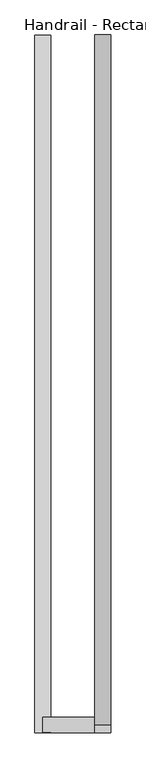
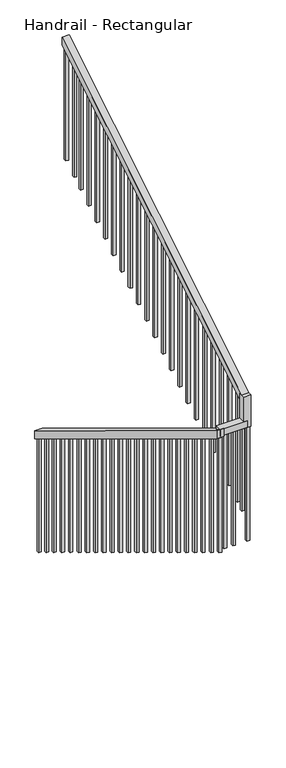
"""IFC4 building model written with IfcOpenShell, lengths in millimetres: railing geometry, Handrail - Rectangular."""

from ifc_helpers import new_model, si_unit, frame, origin, place, context, project, spatial, polyline, outline, extrude, source, transform, mapped, element, save


def handrail_rectangular_dbc5561f(model_context):
    return source(origin(), model_context, "Body", "SweptSolid", [
        extrude(outline(polyline([(-12204.7769844, 40707.7333333), (-12204.7769844, 40648.3318731), (-14439.9769844, 42002.9985397), (-14439.9769844, 42062.4), (-12204.7769844, 40707.7333333)])), frame((-1225.5792336, 0.0, 0.0), z_axis=(1.0, 0.0, 0.0), x_axis=(0.0, 1.0, 0.0)), (0.0, 0.0, 1.0), 50.8),
        extrude(outline(polyline([(-1200.1792336, -14439.9769844), (-1200.1792336, -14389.1769844), (-1008.0917336, -14389.1769844), (-1008.0917336, -14439.9769844), (-1200.1792336, -14439.9769844)])), frame((0.0, 0.0, 42011.6), z_axis=(0.0, 0.0, 1.0), x_axis=(1.0, 0.0, 0.0)), (0.0, 0.0, 1.0), 50.8),
        extrude(outline(polyline([(-982.6917336, -14389.1769844), (-982.6917336, -14439.9769844), (-1033.4917336, -14439.9769844), (-1033.4917336, -14389.1769844), (-982.6917336, -14389.1769844)])), frame((0.0, 0.0, 42011.6), z_axis=(0.0, 0.0, 1.0), x_axis=(1.0, 0.0, 0.0)), (0.0, 0.0, 1.0), 235.5272727),
        extrude(outline(polyline([(-14414.5769844, 42187.7258125), (-14414.5769844, 42247.1272727), (-12204.7769844, 43586.4), (-12204.7769844, 43526.9985397), (-14414.5769844, 42187.7258125)])), frame((-1033.4917336, 0.0, 0.0), z_axis=(1.0, 0.0, 0.0), x_axis=(0.0, 1.0, 0.0)), (0.0, 0.0, 1.0), 50.8),
        extrude(outline(polyline([(-12204.7769844, 42666.2272727), (-12223.8269844, 42666.2272727), (-12223.8269844, 43515.4530852), (-12204.7769844, 43526.9985397), (-12204.7769844, 42666.2272727)])), frame((-1017.6167336, 0.0, 0.0), z_axis=(1.0, 0.0, 0.0), x_axis=(0.0, 1.0, 0.0)), (0.0, 0.0, 1.0), 19.05),
        extrude(outline(polyline([(-12306.3769844, 42604.6515152), (-12325.4269844, 42604.6515152), (-12325.4269844, 43453.8773276), (-12306.3769844, 43465.4227822), (-12306.3769844, 42604.6515152)])), frame((-1017.6167336, 0.0, 0.0), z_axis=(1.0, 0.0, 0.0), x_axis=(0.0, 1.0, 0.0)), (0.0, 0.0, 1.0), 19.05),
        extrude(outline(polyline([(-12385.7519844, 42556.5454545), (-12404.8019844, 42556.5454545), (-12404.8019844, 43405.771267), (-12385.7519844, 43417.3167216), (-12385.7519844, 42556.5454545)])), frame((-1017.6167336, 0.0, 0.0), z_axis=(1.0, 0.0, 0.0), x_axis=(0.0, 1.0, 0.0)), (0.0, 0.0, 1.0), 19.05),
        extrude(outline(polyline([(-12484.1769844, 42496.8939394), (-12503.2269844, 42496.8939394), (-12503.2269844, 43346.1197519), (-12484.1769844, 43357.6652064), (-12484.1769844, 42496.8939394)])), frame((-1017.6167336, 0.0, 0.0), z_axis=(1.0, 0.0, 0.0), x_axis=(0.0, 1.0, 0.0)), (0.0, 0.0, 1.0), 19.05),
        extrude(outline(polyline([(-12585.7769844, 42435.3181818), (-12604.8269844, 42435.3181818), (-12604.8269844, 43284.5439943), (-12585.7769844, 43296.0894488), (-12585.7769844, 42435.3181818)])), frame((-1017.6167336, 0.0, 0.0), z_axis=(1.0, 0.0, 0.0), x_axis=(0.0, 1.0, 0.0)), (0.0, 0.0, 1.0), 19.05),
        extrude(outline(polyline([(-12687.3769844, 42373.7424242), (-12706.4269844, 42373.7424242), (-12706.4269844, 43222.9682367), (-12687.3769844, 43234.5136913), (-12687.3769844, 42373.7424242)])), frame((-1017.6167336, 0.0, 0.0), z_axis=(1.0, 0.0, 0.0), x_axis=(0.0, 1.0, 0.0)), (0.0, 0.0, 1.0), 19.05),
        extrude(outline(polyline([(-12788.9769844, 42312.1666667), (-12808.0269844, 42312.1666667), (-12808.0269844, 43161.3924791), (-12788.9769844, 43172.9379337), (-12788.9769844, 42312.1666667)])), frame((-1017.6167336, 0.0, 0.0), z_axis=(1.0, 0.0, 0.0), x_axis=(0.0, 1.0, 0.0)), (0.0, 0.0, 1.0), 19.05),
        extrude(outline(polyline([(-12890.5769844, 42250.5909091), (-12909.6269844, 42250.5909091), (-12909.6269844, 43099.8167216), (-12890.5769844, 43111.3621761), (-12890.5769844, 42250.5909091)])), frame((-1017.6167336, 0.0, 0.0), z_axis=(1.0, 0.0, 0.0), x_axis=(0.0, 1.0, 0.0)), (0.0, 0.0, 1.0), 19.05),
        extrude(outline(polyline([(-12992.1769844, 42189.0151515), (-13011.2269844, 42189.0151515), (-13011.2269844, 43038.240964), (-12992.1769844, 43049.7864185), (-12992.1769844, 42189.0151515)])), frame((-1017.6167336, 0.0, 0.0), z_axis=(1.0, 0.0, 0.0), x_axis=(0.0, 1.0, 0.0)), (0.0, 0.0, 1.0), 19.05),
        extrude(outline(polyline([(-13093.7769844, 42127.4393939), (-13112.8269844, 42127.4393939), (-13112.8269844, 42976.6652064), (-13093.7769844, 42988.210661), (-13093.7769844, 42127.4393939)])), frame((-1017.6167336, 0.0, 0.0), z_axis=(1.0, 0.0, 0.0), x_axis=(0.0, 1.0, 0.0)), (0.0, 0.0, 1.0), 19.05),
        extrude(outline(polyline([(-13195.3769844, 42065.8636364), (-13214.4269844, 42065.8636364), (-13214.4269844, 42915.0894488), (-13195.3769844, 42926.6349034), (-13195.3769844, 42065.8636364)])), frame((-1017.6167336, 0.0, 0.0), z_axis=(1.0, 0.0, 0.0), x_axis=(0.0, 1.0, 0.0)), (0.0, 0.0, 1.0), 19.05),
        extrude(outline(polyline([(-13296.9769844, 42004.2878788), (-13316.0269844, 42004.2878788), (-13316.0269844, 42853.5136913), (-13296.9769844, 42865.0591458), (-13296.9769844, 42004.2878788)])), frame((-1017.6167336, 0.0, 0.0), z_axis=(1.0, 0.0, 0.0), x_axis=(0.0, 1.0, 0.0)), (0.0, 0.0, 1.0), 19.05),
        extrude(outline(polyline([(-13398.5769844, 41942.7121212), (-13417.6269844, 41942.7121212), (-13417.6269844, 42791.9379337), (-13398.5769844, 42803.4833882), (-13398.5769844, 41942.7121212)])), frame((-1017.6167336, 0.0, 0.0), z_axis=(1.0, 0.0, 0.0), x_axis=(0.0, 1.0, 0.0)), (0.0, 0.0, 1.0), 19.05),
        extrude(outline(polyline([(-13500.1769844, 41881.1363636), (-13519.2269844, 41881.1363636), (-13519.2269844, 42730.3621761), (-13500.1769844, 42741.9076307), (-13500.1769844, 41881.1363636)])), frame((-1017.6167336, 0.0, 0.0), z_axis=(1.0, 0.0, 0.0), x_axis=(0.0, 1.0, 0.0)), (0.0, 0.0, 1.0), 19.05),
        extrude(outline(polyline([(-13601.7769844, 41819.5606061), (-13620.8269844, 41819.5606061), (-13620.8269844, 42668.7864185), (-13601.7769844, 42680.3318731), (-13601.7769844, 41819.5606061)])), frame((-1017.6167336, 0.0, 0.0), z_axis=(1.0, 0.0, 0.0), x_axis=(0.0, 1.0, 0.0)), (0.0, 0.0, 1.0), 19.05),
        extrude(outline(polyline([(-13703.3769844, 41757.9848485), (-13722.4269844, 41757.9848485), (-13722.4269844, 42607.210661), (-13703.3769844, 42618.7561155), (-13703.3769844, 41757.9848485)])), frame((-1017.6167336, 0.0, 0.0), z_axis=(1.0, 0.0, 0.0), x_axis=(0.0, 1.0, 0.0)), (0.0, 0.0, 1.0), 19.05),
        extrude(outline(polyline([(-13804.9769844, 41696.4090909), (-13824.0269844, 41696.4090909), (-13824.0269844, 42545.6349034), (-13804.9769844, 42557.1803579), (-13804.9769844, 41696.4090909)])), frame((-1017.6167336, 0.0, 0.0), z_axis=(1.0, 0.0, 0.0), x_axis=(0.0, 1.0, 0.0)), (0.0, 0.0, 1.0), 19.05),
        extrude(outline(polyline([(-13906.5769844, 41634.8333333), (-13925.6269844, 41634.8333333), (-13925.6269844, 42484.0591458), (-13906.5769844, 42495.6046004), (-13906.5769844, 41634.8333333)])), frame((-1017.6167336, 0.0, 0.0), z_axis=(1.0, 0.0, 0.0), x_axis=(0.0, 1.0, 0.0)), (0.0, 0.0, 1.0), 19.05),
        extrude(outline(polyline([(-14008.1769844, 41573.2575758), (-14027.2269844, 41573.2575758), (-14027.2269844, 42422.4833882), (-14008.1769844, 42434.0288428), (-14008.1769844, 41573.2575758)])), frame((-1017.6167336, 0.0, 0.0), z_axis=(1.0, 0.0, 0.0), x_axis=(0.0, 1.0, 0.0)), (0.0, 0.0, 1.0), 19.05),
        extrude(outline(polyline([(-14109.7769844, 41511.6818182), (-14128.8269844, 41511.6818182), (-14128.8269844, 42360.9076307), (-14109.7769844, 42372.4530852), (-14109.7769844, 41511.6818182)])), frame((-1017.6167336, 0.0, 0.0), z_axis=(1.0, 0.0, 0.0), x_axis=(0.0, 1.0, 0.0)), (0.0, 0.0, 1.0), 19.05),
        extrude(outline(polyline([(-14211.3769844, 41450.1060606), (-14230.4269844, 41450.1060606), (-14230.4269844, 42299.3318731), (-14211.3769844, 42310.8773276), (-14211.3769844, 41450.1060606)])), frame((-1017.6167336, 0.0, 0.0), z_axis=(1.0, 0.0, 0.0), x_axis=(0.0, 1.0, 0.0)), (0.0, 0.0, 1.0), 19.05),
        extrude(outline(polyline([(-14312.9769844, 41388.530303), (-14332.0269844, 41388.530303), (-14332.0269844, 42237.7561155), (-14312.9769844, 42249.30157), (-14312.9769844, 41388.530303)])), frame((-1017.6167336, 0.0, 0.0), z_axis=(1.0, 0.0, 0.0), x_axis=(0.0, 1.0, 0.0)), (0.0, 0.0, 1.0), 19.05),
        extrude(outline(polyline([(-14366.9519844, 41355.8181818), (-14386.0019844, 41355.8181818), (-14386.0019844, 42205.0439943), (-14366.9519844, 42216.5894488), (-14366.9519844, 41355.8181818)])), frame((-1017.6167336, 0.0, 0.0), z_axis=(1.0, 0.0, 0.0), x_axis=(0.0, 1.0, 0.0)), (0.0, 0.0, 1.0), 19.05),
        extrude(outline(polyline([(-1001.7417336, -14405.0519844), (-982.6917336, -14405.0519844), (-982.6917336, -14424.1019844), (-1001.7417336, -14424.1019844), (-1001.7417336, -14405.0519844)])), frame((0.0, 0.0, 41148.0), z_axis=(0.0, 0.0, 1.0), x_axis=(1.0, 0.0, 0.0)), (0.0, 0.0, 1.0), 863.6),
        extrude(outline(polyline([(-1103.3417336, -14405.0519844), (-1084.2917336, -14405.0519844), (-1084.2917336, -14424.1019844), (-1103.3417336, -14424.1019844), (-1103.3417336, -14405.0519844)])), frame((0.0, 0.0, 41148.0), z_axis=(0.0, 0.0, 1.0), x_axis=(1.0, 0.0, 0.0)), (0.0, 0.0, 1.0), 863.6),
        extrude(outline(polyline([(-1164.4604836, -14405.0519844), (-1145.4104836, -14405.0519844), (-1145.4104836, -14424.1019844), (-1164.4604836, -14424.1019844), (-1164.4604836, -14405.0519844)])), frame((0.0, 0.0, 41148.0), z_axis=(0.0, 0.0, 1.0), x_axis=(1.0, 0.0, 0.0)), (0.0, 0.0, 1.0), 863.6),
        extrude(outline(polyline([(-14420.9269844, 41142.2272727), (-14439.9769844, 41142.2272727), (-14439.9769844, 42002.9985397), (-14420.9269844, 41991.4530852), (-14420.9269844, 41142.2272727)])), frame((-1209.7042336, 0.0, 0.0), z_axis=(1.0, 0.0, 0.0), x_axis=(0.0, 1.0, 0.0)), (0.0, 0.0, 1.0), 19.05),
        extrude(outline(polyline([(-14319.3269844, 41080.6515152), (-14338.3769844, 41080.6515152), (-14338.3769844, 41941.4227822), (-14319.3269844, 41929.8773276), (-14319.3269844, 41080.6515152)])), frame((-1209.7042336, 0.0, 0.0), z_axis=(1.0, 0.0, 0.0), x_axis=(0.0, 1.0, 0.0)), (0.0, 0.0, 1.0), 19.05),
        extrude(outline(polyline([(-14217.7269844, 41019.0757576), (-14236.7769844, 41019.0757576), (-14236.7769844, 41879.8470246), (-14217.7269844, 41868.30157), (-14217.7269844, 41019.0757576)])), frame((-1209.7042336, 0.0, 0.0), z_axis=(1.0, 0.0, 0.0), x_axis=(0.0, 1.0, 0.0)), (0.0, 0.0, 1.0), 19.05),
        extrude(outline(polyline([(-14116.1269844, 40957.5), (-14135.1769844, 40957.5), (-14135.1769844, 41818.271267), (-14116.1269844, 41806.7258125), (-14116.1269844, 40957.5)])), frame((-1209.7042336, 0.0, 0.0), z_axis=(1.0, 0.0, 0.0), x_axis=(0.0, 1.0, 0.0)), (0.0, 0.0, 1.0), 19.05),
        extrude(outline(polyline([(-14014.5269844, 40895.9242424), (-14033.5769844, 40895.9242424), (-14033.5769844, 41756.6955094), (-14014.5269844, 41745.1500549), (-14014.5269844, 40895.9242424)])), frame((-1209.7042336, 0.0, 0.0), z_axis=(1.0, 0.0, 0.0), x_axis=(0.0, 1.0, 0.0)), (0.0, 0.0, 1.0), 19.05),
        extrude(outline(polyline([(-13912.9269844, 40834.3484848), (-13931.9769844, 40834.3484848), (-13931.9769844, 41695.1197519), (-13912.9269844, 41683.5742973), (-13912.9269844, 40834.3484848)])), frame((-1209.7042336, 0.0, 0.0), z_axis=(1.0, 0.0, 0.0), x_axis=(0.0, 1.0, 0.0)), (0.0, 0.0, 1.0), 19.05),
        extrude(outline(polyline([(-13811.3269844, 40772.7727273), (-13830.3769844, 40772.7727273), (-13830.3769844, 41633.5439943), (-13811.3269844, 41621.9985397), (-13811.3269844, 40772.7727273)])), frame((-1209.7042336, 0.0, 0.0), z_axis=(1.0, 0.0, 0.0), x_axis=(0.0, 1.0, 0.0)), (0.0, 0.0, 1.0), 19.05),
        extrude(outline(polyline([(-13709.7269844, 40711.1969697), (-13728.7769844, 40711.1969697), (-13728.7769844, 41571.9682367), (-13709.7269844, 41560.4227822), (-13709.7269844, 40711.1969697)])), frame((-1209.7042336, 0.0, 0.0), z_axis=(1.0, 0.0, 0.0), x_axis=(0.0, 1.0, 0.0)), (0.0, 0.0, 1.0), 19.05),
        extrude(outline(polyline([(-13608.1269844, 40649.6212121), (-13627.1769844, 40649.6212121), (-13627.1769844, 41510.3924791), (-13608.1269844, 41498.8470246), (-13608.1269844, 40649.6212121)])), frame((-1209.7042336, 0.0, 0.0), z_axis=(1.0, 0.0, 0.0), x_axis=(0.0, 1.0, 0.0)), (0.0, 0.0, 1.0), 19.05),
        extrude(outline(polyline([(-13506.5269844, 40588.0454545), (-13525.5769844, 40588.0454545), (-13525.5769844, 41448.8167216), (-13506.5269844, 41437.271267), (-13506.5269844, 40588.0454545)])), frame((-1209.7042336, 0.0, 0.0), z_axis=(1.0, 0.0, 0.0), x_axis=(0.0, 1.0, 0.0)), (0.0, 0.0, 1.0), 19.05),
        extrude(outline(polyline([(-13404.9269844, 40526.469697), (-13423.9769844, 40526.469697), (-13423.9769844, 41387.240964), (-13404.9269844, 41375.6955094), (-13404.9269844, 40526.469697)])), frame((-1209.7042336, 0.0, 0.0), z_axis=(1.0, 0.0, 0.0), x_axis=(0.0, 1.0, 0.0)), (0.0, 0.0, 1.0), 19.05),
        extrude(outline(polyline([(-13303.3269844, 40464.8939394), (-13322.3769844, 40464.8939394), (-13322.3769844, 41325.6652064), (-13303.3269844, 41314.1197519), (-13303.3269844, 40464.8939394)])), frame((-1209.7042336, 0.0, 0.0), z_axis=(1.0, 0.0, 0.0), x_axis=(0.0, 1.0, 0.0)), (0.0, 0.0, 1.0), 19.05),
        extrude(outline(polyline([(-13201.7269844, 40403.3181818), (-13220.7769844, 40403.3181818), (-13220.7769844, 41264.0894488), (-13201.7269844, 41252.5439943), (-13201.7269844, 40403.3181818)])), frame((-1209.7042336, 0.0, 0.0), z_axis=(1.0, 0.0, 0.0), x_axis=(0.0, 1.0, 0.0)), (0.0, 0.0, 1.0), 19.05),
        extrude(outline(polyline([(-13100.1269844, 40341.7424242), (-13119.1769844, 40341.7424242), (-13119.1769844, 41202.5136913), (-13100.1269844, 41190.9682367), (-13100.1269844, 40341.7424242)])), frame((-1209.7042336, 0.0, 0.0), z_axis=(1.0, 0.0, 0.0), x_axis=(0.0, 1.0, 0.0)), (0.0, 0.0, 1.0), 19.05),
        extrude(outline(polyline([(-12998.5269844, 40280.1666667), (-13017.5769844, 40280.1666667), (-13017.5769844, 41140.9379337), (-12998.5269844, 41129.3924791), (-12998.5269844, 40280.1666667)])), frame((-1209.7042336, 0.0, 0.0), z_axis=(1.0, 0.0, 0.0), x_axis=(0.0, 1.0, 0.0)), (0.0, 0.0, 1.0), 19.05),
        extrude(outline(polyline([(-12896.9269844, 40218.5909091), (-12915.9769844, 40218.5909091), (-12915.9769844, 41079.3621761), (-12896.9269844, 41067.8167216), (-12896.9269844, 40218.5909091)])), frame((-1209.7042336, 0.0, 0.0), z_axis=(1.0, 0.0, 0.0), x_axis=(0.0, 1.0, 0.0)), (0.0, 0.0, 1.0), 19.05),
        extrude(outline(polyline([(-12795.3269844, 40157.0151515), (-12814.3769844, 40157.0151515), (-12814.3769844, 41017.7864185), (-12795.3269844, 41006.240964), (-12795.3269844, 40157.0151515)])), frame((-1209.7042336, 0.0, 0.0), z_axis=(1.0, 0.0, 0.0), x_axis=(0.0, 1.0, 0.0)), (0.0, 0.0, 1.0), 19.05),
        extrude(outline(polyline([(-12693.7269844, 40095.4393939), (-12712.7769844, 40095.4393939), (-12712.7769844, 40956.210661), (-12693.7269844, 40944.6652064), (-12693.7269844, 40095.4393939)])), frame((-1209.7042336, 0.0, 0.0), z_axis=(1.0, 0.0, 0.0), x_axis=(0.0, 1.0, 0.0)), (0.0, 0.0, 1.0), 19.05),
        extrude(outline(polyline([(-12592.1269844, 40033.8636364), (-12611.1769844, 40033.8636364), (-12611.1769844, 40894.6349034), (-12592.1269844, 40883.0894488), (-12592.1269844, 40033.8636364)])), frame((-1209.7042336, 0.0, 0.0), z_axis=(1.0, 0.0, 0.0), x_axis=(0.0, 1.0, 0.0)), (0.0, 0.0, 1.0), 19.05),
        extrude(outline(polyline([(-12490.5269844, 39972.2878788), (-12509.5769844, 39972.2878788), (-12509.5769844, 40833.0591458), (-12490.5269844, 40821.5136913), (-12490.5269844, 39972.2878788)])), frame((-1209.7042336, 0.0, 0.0), z_axis=(1.0, 0.0, 0.0), x_axis=(0.0, 1.0, 0.0)), (0.0, 0.0, 1.0), 19.05),
        extrude(outline(polyline([(-12388.9269844, 39910.7121212), (-12407.9769844, 39910.7121212), (-12407.9769844, 40771.4833882), (-12388.9269844, 40759.9379337), (-12388.9269844, 39910.7121212)])), frame((-1209.7042336, 0.0, 0.0), z_axis=(1.0, 0.0, 0.0), x_axis=(0.0, 1.0, 0.0)), (0.0, 0.0, 1.0), 19.05),
        extrude(outline(polyline([(-12296.8519844, 39854.9090909), (-12315.9019844, 39854.9090909), (-12315.9019844, 40715.6803579), (-12296.8519844, 40704.1349034), (-12296.8519844, 39854.9090909)])), frame((-1209.7042336, 0.0, 0.0), z_axis=(1.0, 0.0, 0.0), x_axis=(0.0, 1.0, 0.0)), (0.0, 0.0, 1.0), 19.05),
        extrude(outline(polyline([(-12204.7769844, 39799.1060606), (-12223.8269844, 39799.1060606), (-12223.8269844, 40659.8773276), (-12204.7769844, 40648.3318731), (-12204.7769844, 39799.1060606)])), frame((-1209.7042336, 0.0, 0.0), z_axis=(1.0, 0.0, 0.0), x_axis=(0.0, 1.0, 0.0)), (0.0, 0.0, 1.0), 19.05),
    ])


if __name__ == "__main__":
    model = new_model("IFC4")
    model_context = context("Model", 3, world=origin())
    ifc_project = project(units=[si_unit("LENGTHUNIT", "METRE", prefix="MILLI")], contexts=[model_context])
    site = spatial("IfcSite", under=ifc_project)
    building = spatial("IfcBuilding", under=site)
    placement = place(None, origin())
    handrail_rectangular_shape = handrail_rectangular_dbc5561f(model_context)
    element("IfcRailing", 1, ObjectType="Handrail - Rectangular", at=placement, inside=building, context=model_context, shape_type="MappedRepresentation", body=[
        mapped(handrail_rectangular_shape, transform((0.0, 0.0, 0.0), x_axis=(1.0, 0.0, 0.0), y_axis=(0.0, 1.0, 0.0), z_axis=(0.0, 0.0, 1.0))),
    ])
    save(model, "model.ifc")
